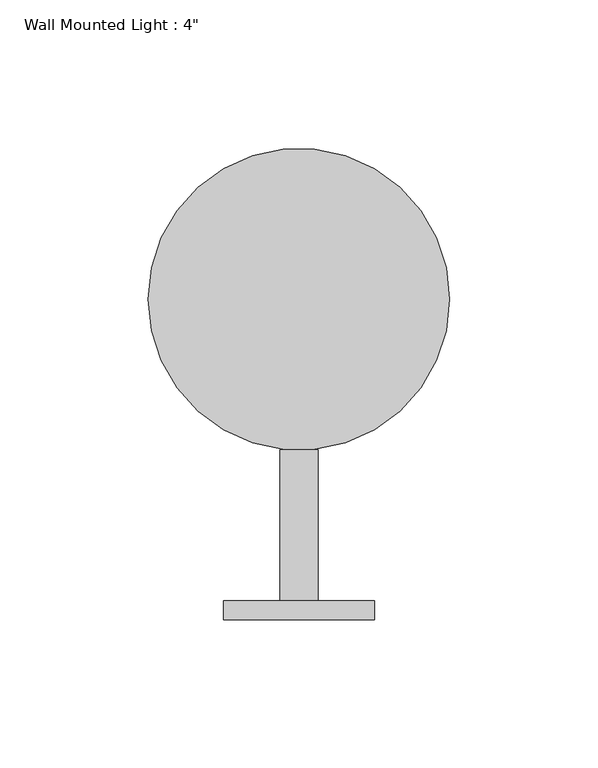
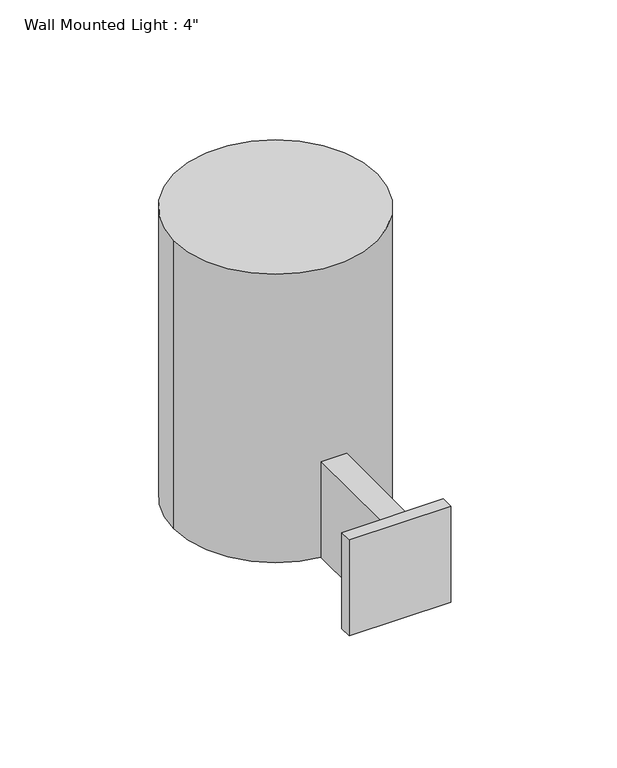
"""IFC4 building model written with IfcOpenShell, lengths in millimetres: light fixture geometry."""

import ifcopenshell
import ifcopenshell.guid

model = None  # the IFC model being written
_history = None  # IfcOwnerHistory: only IFC2X3 demands one
_inside = {}  # id of a spatial element -> (the spatial element, [elements in it])
_under = {}  # id of a project, library or spatial element -> (it, [spatial elements below it])
_declared = {}  # id of a project -> (the project, [libraries it declares])
_typed = {}  # id of a type object -> (the type object, [elements of that type])
_made_of = {}  # id of a material, layer set ... -> (it, [elements and type objects made of it])


def new_model(schema):
    """Start an empty IFC model of exactly this schema.

    Asked for "IFC4X3", IfcOpenShell would pick the latest addendum, in which some entities
    have other attributes; the version numbers below select the first issue.
    IFC2X3 requires an IfcOwnerHistory on every rooted entity: one is made here for all.
    """
    global model, _history
    if schema == "IFC4X3":
        model = ifcopenshell.file(schema_version=(4, 3, 0, 0))
    else:
        model = ifcopenshell.file(schema=schema)
    _inside.clear()
    _under.clear()
    _declared.clear()
    _typed.clear()
    _made_of.clear()
    _history = None
    if model.schema == "IFC2X3":
        org = make("IfcOrganization", Name="unknown")
        user = make(
            "IfcPersonAndOrganization",
            ThePerson=make("IfcPerson", FamilyName="unknown"),
            TheOrganization=org,
        )
        app = make(
            "IfcApplication",
            ApplicationDeveloper=org,
            Version="unknown",
            ApplicationFullName="unknown",
            ApplicationIdentifier="unknown",
        )
        _history = make(
            "IfcOwnerHistory",
            OwningUser=user,
            OwningApplication=app,
            ChangeAction="ADDED",
            CreationDate=0,
        )
    return model


def make(cls, **values):
    """One entity of the class cls with the attributes given. An attribute that is None is left unset."""
    return model.create_entity(
        cls, **{name: value for name, value in values.items() if value is not None}
    )


def rooted(cls, **values):
    """An entity with a GlobalId (a new one), such as an element, a storey or a relation."""
    return make(cls, GlobalId=ifcopenshell.guid.new(), OwnerHistory=_history, **values)


def si_unit(unit_type, name, prefix=None):
    """IfcSIUnit, for example si_unit("LENGTHUNIT", "METRE", prefix="MILLI")."""
    return make("IfcSIUnit", UnitType=unit_type, Prefix=prefix, Name=name)


def assignment(units):
    """IfcUnitAssignment: the units of a project."""
    return None if units is None else make("IfcUnitAssignment", Units=units)


def point(xyz):
    """IfcCartesianPoint."""
    return None if xyz is None else make("IfcCartesianPoint", Coordinates=xyz)


def direction(xyz):
    """IfcDirection."""
    return None if xyz is None else make("IfcDirection", DirectionRatios=xyz)


def frame(location, z_axis=None, x_axis=None):
    """IfcAxis2Placement3D, a coordinate frame: its origin and axes. An axis left out is left unset."""
    return make(
        "IfcAxis2Placement3D",
        Location=point(location),
        Axis=direction(z_axis),
        RefDirection=direction(x_axis),
    )


def frame_2d(location, x_axis=None):
    """IfcAxis2Placement2D, a coordinate frame in the plane: its origin and x axis."""
    return make(
        "IfcAxis2Placement2D", Location=point(location), RefDirection=direction(x_axis)
    )


def origin():
    """The frame at (0, 0, 0) with its axes left unset."""
    return frame((0.0, 0.0, 0.0))


def place(relative_to, where):
    """IfcLocalPlacement: puts the frame where relative to a parent placement (None: the world)."""
    return make(
        "IfcLocalPlacement", PlacementRelTo=relative_to, RelativePlacement=where
    )


def context(
    kind, dimensions, precision=None, world=None, true_north=None, identifier=None
):
    """IfcGeometricRepresentationContext, for example the 3D "Model" context."""
    return make(
        "IfcGeometricRepresentationContext",
        ContextIdentifier=identifier,
        ContextType=kind,
        CoordinateSpaceDimension=dimensions,
        Precision=precision,
        WorldCoordinateSystem=world,
        TrueNorth=true_north,
    )


def project(units=None, contexts=None):
    """IfcProject with its units and contexts."""
    return rooted(
        "IfcProject",
        Name="project",
        RepresentationContexts=contexts,
        UnitsInContext=assignment(units),
    )


def spatial(cls, under=None, at=None, **own):
    """A site, building, storey or space (cls), placed at a placement, below another one or the project."""
    s = rooted(cls, ObjectPlacement=at, **own)
    if under is not None:
        _under.setdefault(under.id(), (under, []))[1].append(s)
    return s


def polyline(points):
    """IfcPolyline through the points."""
    return make("IfcPolyline", Points=[point(p) for p in points])


def circle_curve(where, radius):
    """IfcCircle in the frame where."""
    return make("IfcCircle", Position=where, Radius=radius)


def trimmed(basis, trim1, trim2, sense, master):
    """IfcTrimmedCurve: the piece of a basis curve between two trims."""
    return make(
        "IfcTrimmedCurve",
        BasisCurve=basis,
        Trim1=trim1,
        Trim2=trim2,
        SenseAgreement=sense,
        MasterRepresentation=master,
    )


def segment(curve, same_sense, transition):
    """IfcCompositeCurveSegment."""
    return make(
        "IfcCompositeCurveSegment",
        Transition=transition,
        SameSense=same_sense,
        ParentCurve=curve,
    )


def composite_curve(segments, self_intersect=None):
    """IfcCompositeCurve: segments joined end to end."""
    return make("IfcCompositeCurve", Segments=segments, SelfIntersect=self_intersect)


def outline(outer, holes=None, kind="AREA"):
    """IfcArbitraryClosedProfileDef: a profile drawn as a closed curve; with holes, ...WithVoids."""
    if holes is None:
        return make("IfcArbitraryClosedProfileDef", ProfileType=kind, OuterCurve=outer)
    return make(
        "IfcArbitraryProfileDefWithVoids",
        ProfileType=kind,
        OuterCurve=outer,
        InnerCurves=holes,
    )


def extrude(swept, where, along, depth):
    """IfcExtrudedAreaSolid: the profile swept, set in the frame where, extruded along a direction by depth."""
    return make(
        "IfcExtrudedAreaSolid",
        SweptArea=swept,
        Position=where,
        ExtrudedDirection=direction(along),
        Depth=depth,
    )


def shape(context_of_items, identifier, shape_type, items):
    """IfcShapeRepresentation: the items that make up one representation, for example the "Body"."""
    return make(
        "IfcShapeRepresentation",
        ContextOfItems=context_of_items,
        RepresentationIdentifier=identifier,
        RepresentationType=shape_type,
        Items=items,
    )


def source(mapping_origin, context_of_items, identifier, shape_type, items):
    """IfcRepresentationMap: a shape defined once, which mapped items show again and again."""
    return make(
        "IfcRepresentationMap",
        MappingOrigin=mapping_origin,
        MappedRepresentation=shape(context_of_items, identifier, shape_type, items),
    )


def transform(
    local_origin,
    x_axis=None,
    y_axis=None,
    z_axis=None,
    scale=None,
    scale2=None,
    scale3=None,
    uniform=True,
):
    """IfcCartesianTransformationOperator3D, or its non-uniform kind. x_axis, y_axis, z_axis: its Axis1, 2, 3."""
    if uniform:
        return make(
            "IfcCartesianTransformationOperator3D",
            Axis1=direction(x_axis),
            Axis2=direction(y_axis),
            LocalOrigin=point(local_origin),
            Scale=scale,
            Axis3=direction(z_axis),
        )
    return make(
        "IfcCartesianTransformationOperator3DnonUniform",
        Axis1=direction(x_axis),
        Axis2=direction(y_axis),
        LocalOrigin=point(local_origin),
        Scale=scale,
        Axis3=direction(z_axis),
        Scale2=scale2,
        Scale3=scale3,
    )


def mapped(mapping_source, mapping_target):
    """IfcMappedItem: shows the shape of a source again, moved by a transform."""
    return make(
        "IfcMappedItem", MappingSource=mapping_source, MappingTarget=mapping_target
    )


def made_of(thing, what):
    """Note that an element or type object is made of a material, layer set ...; save() writes the relation."""
    if what is not None:
        _made_of.setdefault(what.id(), (what, []))[1].append(thing)
    return thing


def element(
    cls,
    number,
    at=None,
    inside=None,
    cuts=None,
    type_object=None,
    material=None,
    context=None,
    identifier="Body",
    shape_type=None,
    held_by="IfcProductDefinitionShape",
    body=None,
    shapes=None,
    **own,
):
    """One element of the class cls, such as IfcWall. Its Tag is "e" and its number.

    at: its placement. inside: the storey or other place that contains it. cuts: it is an
    opening in that element (IfcRelVoidsElement). A single representation is given by context,
    identifier, shape_type and body (its items); several are given by shapes. held_by: the class
    of the entity that holds the representations. save() writes the other relations.
    """
    e = rooted(cls, Tag="e%d" % number, ObjectPlacement=at, **own)
    if body is not None:
        shapes = [shape(context, identifier, shape_type, body)]
    if shapes is not None:
        e.Representation = make(held_by, Representations=shapes)
    if inside is not None:
        _inside.setdefault(inside.id(), (inside, []))[1].append(e)
    if cuts is not None:
        rooted(
            "IfcRelVoidsElement", RelatingBuildingElement=cuts, RelatedOpeningElement=e
        )
    if type_object is not None:
        _typed.setdefault(type_object.id(), (type_object, []))[1].append(e)
    return made_of(e, material)


def aggregate(whole, parts):
    """IfcRelAggregates: a whole, such as a stair, and the parts it consists of."""
    return rooted("IfcRelAggregates", RelatingObject=whole, RelatedObjects=parts)


def save(model, path):
    """Write the relations noted so far, then the file.

    IfcRelAggregates (storeys below a building ...), IfcRelContainedInSpatialStructure (elements
    in a storey), IfcRelDefinesByType, IfcRelAssociatesMaterial and IfcRelDeclares: one each for
    every whole, place, type object, material and project.
    """
    for whole, parts in _under.values():
        aggregate(whole, parts)
    for where, things in _inside.values():
        rooted(
            "IfcRelContainedInSpatialStructure",
            RelatedElements=things,
            RelatingStructure=where,
        )
    for kind, things in _typed.values():
        rooted("IfcRelDefinesByType", RelatedObjects=things, RelatingType=kind)
    for what, things in _made_of.values():
        rooted("IfcRelAssociatesMaterial", RelatedObjects=things, RelatingMaterial=what)
    for by, libraries in _declared.values():
        rooted("IfcRelDeclares", RelatingContext=by, RelatedDefinitions=libraries)
    model.write(path)


def light_fixture_e469d1bf(model_context):
    return source(origin(), model_context, "Body", "SweptSolid", [
        extrude(outline(polyline([(-25.4, 6.35), (25.4, 6.35), (25.4, 0.0), (-25.4, 0.0), (-25.4, 6.35)])), frame((0.0, 0.0, 1854.2), z_axis=(0.0, 0.0, 1.0), x_axis=(1.0, 0.0, 0.0)), (0.0, 0.0, 1.0), 50.8),
        extrude(outline(polyline([(6.35, 57.15), (6.35, 6.35), (-6.35, 6.35), (-6.35, 57.15), (6.35, 57.15)])), frame((0.0, 0.0, 1854.2), z_axis=(0.0, 0.0, 1.0), x_axis=(1.0, 0.0, 0.0)), (0.0, 0.0, 1.0), 50.8),
        extrude(outline(composite_curve([segment(trimmed(circle_curve(frame_2d((0.0, 107.95)), 50.8), [point((-50.8, 107.95))], [point((50.8, 107.95))], False, "CARTESIAN"), True, "CONTINUOUS"), segment(trimmed(circle_curve(frame_2d((0.0, 107.95)), 50.8), [point((50.8, 107.95))], [point((-50.8, 107.95))], False, "CARTESIAN"), True, "CONTINUOUS")], self_intersect=False)), frame((0.0, 0.0, 1854.2), z_axis=(0.0, 0.0, 1.0), x_axis=(1.0, 0.0, 0.0)), (0.0, 0.0, 1.0), 152.4),
    ])


if __name__ == "__main__":
    model = new_model("IFC4")
    model_context = context("Model", 3, world=origin())
    ifc_project = project(units=[si_unit("LENGTHUNIT", "METRE", prefix="MILLI")], contexts=[model_context])
    site = spatial("IfcSite", under=ifc_project)
    building = spatial("IfcBuilding", under=site)
    placement = place(None, origin())
    light_fixture_shape = light_fixture_e469d1bf(model_context)
    element("IfcLightFixture", 1, ObjectType="Wall Mounted Light : 4\"", at=placement, inside=building, context=model_context, shape_type="MappedRepresentation", body=[
        mapped(light_fixture_shape, transform((0.0, 0.0, 0.0), x_axis=(1.0, 0.0, 0.0), y_axis=(0.0, 1.0, 0.0), z_axis=(0.0, 0.0, 1.0))),
    ])
    save(model, "model.ifc")
